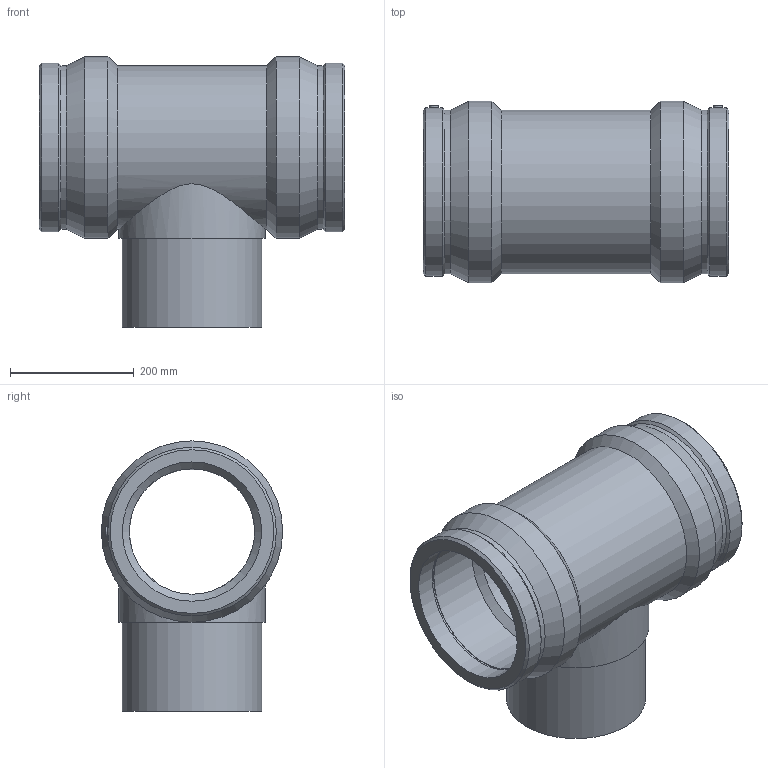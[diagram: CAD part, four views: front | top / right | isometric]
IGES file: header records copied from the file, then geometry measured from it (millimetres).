
Global section: file name: 490404225.ipt; native system: Autodesk Inventor 2015; preprocessor: unknown; author: KIM; date: 20171106.093620; units: millimetre
Bounding box: 494 x 293 x 436.5 mm (x, y, z)
Volume: 12819612.2 mm3; surface area: 1011491.4 mm2
Topology: 1 solids, 1 shells, 45 faces, 101 edges, 66 vertices
Faces by surface type: plane 12, revolution 12, cylinder 11, cone 10
Full cylindrical faces by diameter (mm): 4 x2, 225 x1, 236.25 x1, 263.7 x1, 264.315 x2, 272.49 x2, 293 x2
